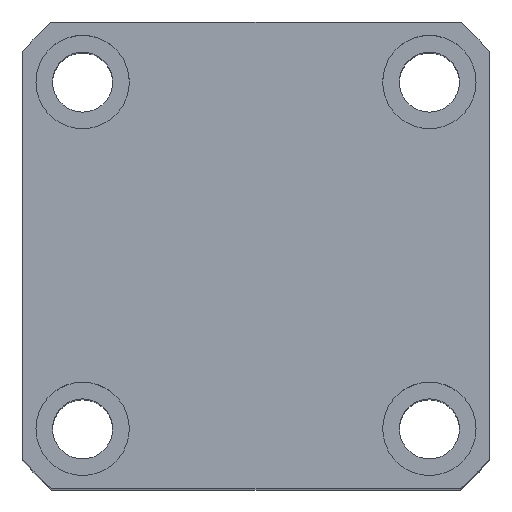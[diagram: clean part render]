
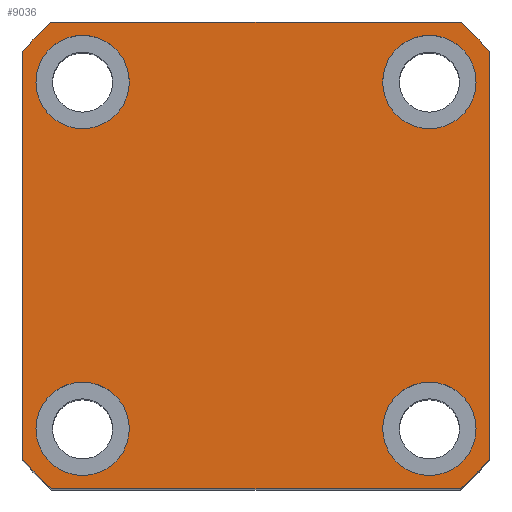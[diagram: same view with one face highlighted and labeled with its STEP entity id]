
A CAD part, top view. The second image highlights one B-rep face of the part: STEP entity #9036.
In plain terms, the highlighted planar face has unit normal (0, 0, 1).
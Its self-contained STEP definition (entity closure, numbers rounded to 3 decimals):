
#111 = CARTESIAN_POINT ( 'NONE',  ( 0., 0., 100. ) ) ;
#186 = CARTESIAN_POINT ( 'NONE',  ( 0., 0., 100. ) ) ;
#194 = EDGE_CURVE ( 'NONE', #2329, #1804, #12782, .T. ) ;
#687 = AXIS2_PLACEMENT_3D ( 'NONE', #11530, #5287, #12576 ) ;
#727 = AXIS2_PLACEMENT_3D ( 'NONE', #8198, #1917, #9222 ) ;
#867 = VERTEX_POINT ( 'NONE', #6140 ) ;
#1159 = DIRECTION ( 'NONE',  ( 1., 0., 0. ) ) ;
#1169 = ORIENTED_EDGE ( 'NONE', *, *, #8308, .F. ) ;
#1340 = AXIS2_PLACEMENT_3D ( 'NONE', #12274, #6047, #13314 ) ;
#1394 = VECTOR ( 'NONE', #2826, 1000. ) ;
#1396 = CARTESIAN_POINT ( 'NONE',  ( 0., 0., 100. ) ) ;
#1412 = VERTEX_POINT ( 'NONE', #7383 ) ;
#1682 = EDGE_LOOP ( 'NONE', ( #8475, #3710 ) ) ;
#1709 = CIRCLE ( 'NONE', #727, 7. ) ;
#1804 = VERTEX_POINT ( 'NONE', #9125 ) ;
#1916 = CIRCLE ( 'NONE', #3159, 46.5 ) ;
#1917 = DIRECTION ( 'NONE',  ( 0., 0., 1. ) ) ;
#2020 = VERTEX_POINT ( 'NONE', #12254 ) ;
#2103 = FACE_OUTER_BOUND ( 'NONE', #12398, .T. ) ;
#2148 = CARTESIAN_POINT ( 'NONE',  ( -19., 26., 100. ) ) ;
#2173 = CARTESIAN_POINT ( 'NONE',  ( -35., 35., 100. ) ) ;
#2214 = EDGE_LOOP ( 'NONE', ( #9224, #1169 ) ) ;
#2216 = DIRECTION ( 'NONE',  ( 0., 0., 1. ) ) ;
#2285 = DIRECTION ( 'NONE',  ( 0., 0., 1. ) ) ;
#2291 = ORIENTED_EDGE ( 'NONE', *, *, #12607, .T. ) ;
#2329 = VERTEX_POINT ( 'NONE', #7259 ) ;
#2453 = DIRECTION ( 'NONE',  ( 1., 0., 0. ) ) ;
#2754 = CIRCLE ( 'NONE', #687, 7. ) ;
#2766 = EDGE_CURVE ( 'NONE', #8845, #2329, #5060, .T. ) ;
#2826 = DIRECTION ( 'NONE',  ( 0., 1., 0. ) ) ;
#2917 = CIRCLE ( 'NONE', #9653, 7. ) ;
#3159 = AXIS2_PLACEMENT_3D ( 'NONE', #1396, #8729, #2453 ) ;
#3184 = ORIENTED_EDGE ( 'NONE', *, *, #194, .T. ) ;
#3265 = DIRECTION ( 'NONE',  ( 0., 0., 1. ) ) ;
#3392 = VERTEX_POINT ( 'NONE', #11806 ) ;
#3546 = CIRCLE ( 'NONE', #1340, 7. ) ;
#3604 = EDGE_CURVE ( 'NONE', #2020, #13268, #2917, .T. ) ;
#3642 = DIRECTION ( 'NONE',  ( 0., 0., 1. ) ) ;
#3710 = ORIENTED_EDGE ( 'NONE', *, *, #12280, .F. ) ;
#3745 = CARTESIAN_POINT ( 'NONE',  ( -33., -26., 100. ) ) ;
#4065 = EDGE_CURVE ( 'NONE', #867, #6367, #11053, .T. ) ;
#4084 = DIRECTION ( 'NONE',  ( 0., 0., 1. ) ) ;
#4108 = CARTESIAN_POINT ( 'NONE',  ( 35., 30.615, 100. ) ) ;
#4135 = VERTEX_POINT ( 'NONE', #11490 ) ;
#4458 = DIRECTION ( 'NONE',  ( 1., 0., 0. ) ) ;
#4518 = LINE ( 'NONE', #9076, #1394 ) ;
#4718 = VECTOR ( 'NONE', #4458, 1000. ) ;
#4723 = ORIENTED_EDGE ( 'NONE', *, *, #11292, .T. ) ;
#4745 = ORIENTED_EDGE ( 'NONE', *, *, #7358, .F. ) ;
#4858 = CARTESIAN_POINT ( 'NONE',  ( -35., -30.615, 100. ) ) ;
#4896 = FACE_BOUND ( 'NONE', #10387, .T. ) ;
#5060 = LINE ( 'NONE', #11752, #4718 ) ;
#5083 = CARTESIAN_POINT ( 'NONE',  ( 33., -26., 100. ) ) ;
#5166 = CARTESIAN_POINT ( 'NONE',  ( -35., 35., 100. ) ) ;
#5241 = EDGE_CURVE ( 'NONE', #4135, #11819, #3546, .T. ) ;
#5287 = DIRECTION ( 'NONE',  ( 0., 0., 1. ) ) ;
#5339 = CIRCLE ( 'NONE', #5567, 46.5 ) ;
#5376 = VERTEX_POINT ( 'NONE', #10469 ) ;
#5416 = ORIENTED_EDGE ( 'NONE', *, *, #9377, .T. ) ;
#5431 = CARTESIAN_POINT ( 'NONE',  ( 19., 26., 100. ) ) ;
#5432 = EDGE_CURVE ( 'NONE', #1412, #8746, #11205, .T. ) ;
#5439 = CARTESIAN_POINT ( 'NONE',  ( 26., -26., 100. ) ) ;
#5454 = EDGE_CURVE ( 'NONE', #12987, #867, #5339, .T. ) ;
#5531 = ORIENTED_EDGE ( 'NONE', *, *, #7990, .F. ) ;
#5538 = VECTOR ( 'NONE', #12448, 1000. ) ;
#5546 = CARTESIAN_POINT ( 'NONE',  ( 26., 26., 100. ) ) ;
#5567 = AXIS2_PLACEMENT_3D ( 'NONE', #8501, #2216, #9539 ) ;
#5568 = CIRCLE ( 'NONE', #9970, 7. ) ;
#6047 = DIRECTION ( 'NONE',  ( 0., 0., 1. ) ) ;
#6140 = CARTESIAN_POINT ( 'NONE',  ( 30.615, 35., 100. ) ) ;
#6367 = VERTEX_POINT ( 'NONE', #10754 ) ;
#6475 = PLANE ( 'NONE',  #12758 ) ;
#6493 = ORIENTED_EDGE ( 'NONE', *, *, #7777, .F. ) ;
#6506 = DIRECTION ( 'NONE',  ( 1., 0., 0. ) ) ;
#6607 = DIRECTION ( 'NONE',  ( 1., 0., 0. ) ) ;
#6834 = ORIENTED_EDGE ( 'NONE', *, *, #5454, .T. ) ;
#6996 = ORIENTED_EDGE ( 'NONE', *, *, #4065, .T. ) ;
#7259 = CARTESIAN_POINT ( 'NONE',  ( 30.615, -35., 100. ) ) ;
#7332 = VERTEX_POINT ( 'NONE', #2148 ) ;
#7358 = EDGE_CURVE ( 'NONE', #3392, #11982, #8006, .T. ) ;
#7383 = CARTESIAN_POINT ( 'NONE',  ( -35., 30.615, 100. ) ) ;
#7445 = DIRECTION ( 'NONE',  ( 0., 0., 1. ) ) ;
#7687 = FACE_BOUND ( 'NONE', #1682, .T. ) ;
#7720 = DIRECTION ( 'NONE',  ( 1., 0., 0. ) ) ;
#7777 = EDGE_CURVE ( 'NONE', #11982, #3392, #10911, .T. ) ;
#7778 = CIRCLE ( 'NONE', #8884, 46.5 ) ;
#7799 = AXIS2_PLACEMENT_3D ( 'NONE', #9510, #3265, #10535 ) ;
#7990 = EDGE_CURVE ( 'NONE', #11819, #4135, #10264, .T. ) ;
#8006 = CIRCLE ( 'NONE', #7799, 7. ) ;
#8127 = ORIENTED_EDGE ( 'NONE', *, *, #5432, .T. ) ;
#8198 = CARTESIAN_POINT ( 'NONE',  ( 26., 26., 100. ) ) ;
#8308 = EDGE_CURVE ( 'NONE', #5376, #7332, #2754, .T. ) ;
#8451 = DIRECTION ( 'NONE',  ( 0., -1., 0. ) ) ;
#8475 = ORIENTED_EDGE ( 'NONE', *, *, #3604, .F. ) ;
#8501 = CARTESIAN_POINT ( 'NONE',  ( 0., 0., 100. ) ) ;
#8729 = DIRECTION ( 'NONE',  ( 0., 0., 1. ) ) ;
#8746 = VERTEX_POINT ( 'NONE', #4858 ) ;
#8845 = VERTEX_POINT ( 'NONE', #12329 ) ;
#8884 = AXIS2_PLACEMENT_3D ( 'NONE', #111, #7445, #1159 ) ;
#8927 = AXIS2_PLACEMENT_3D ( 'NONE', #5439, #12723, #6506 ) ;
#8939 = EDGE_CURVE ( 'NONE', #7332, #5376, #5568, .T. ) ;
#9036 = ADVANCED_FACE ( 'NONE', ( #4896, #13208, #7687, #12893, #2103 ), #6475, .T. ) ;
#9076 = CARTESIAN_POINT ( 'NONE',  ( 35., 35., 100. ) ) ;
#9125 = CARTESIAN_POINT ( 'NONE',  ( 35., -30.615, 100. ) ) ;
#9222 = DIRECTION ( 'NONE',  ( 1., 0., 0. ) ) ;
#9224 = ORIENTED_EDGE ( 'NONE', *, *, #8939, .F. ) ;
#9377 = EDGE_CURVE ( 'NONE', #6367, #1412, #1916, .T. ) ;
#9510 = CARTESIAN_POINT ( 'NONE',  ( 26., -26., 100. ) ) ;
#9539 = DIRECTION ( 'NONE',  ( 1., 0., 0. ) ) ;
#9606 = DIRECTION ( 'NONE',  ( 1., 0., 0. ) ) ;
#9652 = ORIENTED_EDGE ( 'NONE', *, *, #2766, .T. ) ;
#9653 = AXIS2_PLACEMENT_3D ( 'NONE', #5546, #12820, #6607 ) ;
#9810 = DIRECTION ( 'NONE',  ( 0., 0., 1. ) ) ;
#9891 = CARTESIAN_POINT ( 'NONE',  ( -26., -26., 100. ) ) ;
#9924 = EDGE_LOOP ( 'NONE', ( #6493, #4745 ) ) ;
#9970 = AXIS2_PLACEMENT_3D ( 'NONE', #10314, #4084, #11375 ) ;
#10232 = ORIENTED_EDGE ( 'NONE', *, *, #5241, .F. ) ;
#10264 = CIRCLE ( 'NONE', #12416, 7. ) ;
#10314 = CARTESIAN_POINT ( 'NONE',  ( -26., 26., 100. ) ) ;
#10387 = EDGE_LOOP ( 'NONE', ( #10232, #5531 ) ) ;
#10469 = CARTESIAN_POINT ( 'NONE',  ( -33., 26., 100. ) ) ;
#10535 = DIRECTION ( 'NONE',  ( 1., 0., 0. ) ) ;
#10540 = VECTOR ( 'NONE', #8451, 1000. ) ;
#10676 = AXIS2_PLACEMENT_3D ( 'NONE', #11849, #9810, #7720 ) ;
#10754 = CARTESIAN_POINT ( 'NONE',  ( -30.615, 35., 100. ) ) ;
#10911 = CIRCLE ( 'NONE', #8927, 7. ) ;
#10926 = DIRECTION ( 'NONE',  ( 1., 0., 0. ) ) ;
#11053 = LINE ( 'NONE', #5166, #5538 ) ;
#11205 = LINE ( 'NONE', #2173, #10540 ) ;
#11292 = EDGE_CURVE ( 'NONE', #1804, #12987, #4518, .T. ) ;
#11375 = DIRECTION ( 'NONE',  ( 1., 0., 0. ) ) ;
#11490 = CARTESIAN_POINT ( 'NONE',  ( -19., -26., 100. ) ) ;
#11530 = CARTESIAN_POINT ( 'NONE',  ( -26., 26., 100. ) ) ;
#11752 = CARTESIAN_POINT ( 'NONE',  ( -35., -35., 100. ) ) ;
#11806 = CARTESIAN_POINT ( 'NONE',  ( 19., -26., 100. ) ) ;
#11819 = VERTEX_POINT ( 'NONE', #3745 ) ;
#11849 = CARTESIAN_POINT ( 'NONE',  ( 0., 0., 100. ) ) ;
#11982 = VERTEX_POINT ( 'NONE', #5083 ) ;
#12254 = CARTESIAN_POINT ( 'NONE',  ( 33., 26., 100. ) ) ;
#12274 = CARTESIAN_POINT ( 'NONE',  ( -26., -26., 100. ) ) ;
#12280 = EDGE_CURVE ( 'NONE', #13268, #2020, #1709, .T. ) ;
#12329 = CARTESIAN_POINT ( 'NONE',  ( -30.615, -35., 100. ) ) ;
#12398 = EDGE_LOOP ( 'NONE', ( #4723, #6834, #6996, #5416, #8127, #2291, #9652, #3184 ) ) ;
#12416 = AXIS2_PLACEMENT_3D ( 'NONE', #9891, #3642, #10926 ) ;
#12448 = DIRECTION ( 'NONE',  ( -1., 0., 0. ) ) ;
#12576 = DIRECTION ( 'NONE',  ( 1., 0., 0. ) ) ;
#12607 = EDGE_CURVE ( 'NONE', #8746, #8845, #7778, .T. ) ;
#12723 = DIRECTION ( 'NONE',  ( 0., 0., 1. ) ) ;
#12758 = AXIS2_PLACEMENT_3D ( 'NONE', #186, #2285, #9606 ) ;
#12782 = CIRCLE ( 'NONE', #10676, 46.5 ) ;
#12820 = DIRECTION ( 'NONE',  ( 0., 0., 1. ) ) ;
#12893 = FACE_BOUND ( 'NONE', #2214, .T. ) ;
#12987 = VERTEX_POINT ( 'NONE', #4108 ) ;
#13208 = FACE_BOUND ( 'NONE', #9924, .T. ) ;
#13268 = VERTEX_POINT ( 'NONE', #5431 ) ;
#13314 = DIRECTION ( 'NONE',  ( 1., 0., 0. ) ) ;
